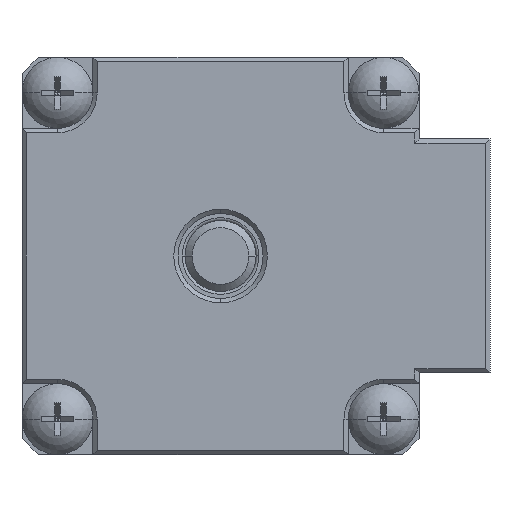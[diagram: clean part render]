
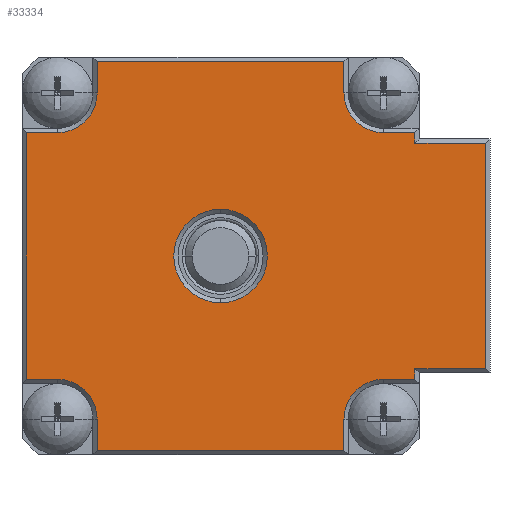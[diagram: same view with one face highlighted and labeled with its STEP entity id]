
A CAD part, front view. The second image highlights one B-rep face of the part: STEP entity #33334.
In plain terms, the highlighted planar face has unit normal (0, -1, 0).
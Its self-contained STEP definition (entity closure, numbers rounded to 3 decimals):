
#3538=DIRECTION('',(0.,0.,1.));
#3539=VECTOR('',#3538,0.75);
#3540=CARTESIAN_POINT('',(13.7,-2.5,7.95));
#3541=LINE('',#3540,#3539);
#3542=DIRECTION('',(-1.,0.,0.));
#3543=VECTOR('',#3542,5.);
#3544=CARTESIAN_POINT('',(18.7,-2.5,7.95));
#3545=LINE('',#3544,#3543);
#3546=DIRECTION('',(0.,0.,-1.));
#3547=VECTOR('',#3546,15.9);
#3548=CARTESIAN_POINT('',(18.7,-2.5,7.95));
#3549=LINE('',#3548,#3547);
#3550=DIRECTION('',(-1.,0.,0.));
#3551=VECTOR('',#3550,5.);
#3552=CARTESIAN_POINT('',(18.7,-2.5,-7.95));
#3553=LINE('',#3552,#3551);
#3554=DIRECTION('',(0.,0.,1.));
#3555=VECTOR('',#3554,0.75);
#3556=CARTESIAN_POINT('',(13.7,-2.5,-8.7));
#3557=LINE('',#3556,#3555);
#3558=DIRECTION('',(1.,0.,0.));
#3559=VECTOR('',#3558,2.2);
#3560=CARTESIAN_POINT('',(11.5,-2.5,
-8.7));
#3561=LINE('',#3560,#3559);
#3562=CARTESIAN_POINT('',(11.5,-2.5,-11.5));
#3563=DIRECTION('',(0.,1.,0.));
#3564=DIRECTION('',(-1.,0.,0.));
#3565=AXIS2_PLACEMENT_3D('',#3562,#3563,#3564);
#3567=DIRECTION('',(0.,0.,1.));
#3568=VECTOR('',#3567,2.2);
#3569=CARTESIAN_POINT('',(8.7,-2.5,-13.7));
#3570=LINE('',#3569,#3568);
#3571=DIRECTION('',(1.,0.,0.));
#3572=VECTOR('',#3571,17.4);
#3573=CARTESIAN_POINT('',(-8.7,-2.5,-13.7));
#3574=LINE('',#3573,#3572);
#3575=DIRECTION('',(0.,0.,-1.));
#3576=VECTOR('',#3575,2.2);
#3577=CARTESIAN_POINT('',(-8.7,-2.5,
-11.5));
#3578=LINE('',#3577,#3576);
#3579=CARTESIAN_POINT('',(-11.5,-2.5,-11.5));
#3580=DIRECTION('',(0.,1.,0.));
#3581=DIRECTION('',(0.,0.,1.));
#3582=AXIS2_PLACEMENT_3D('',#3579,#3580,#3581);
#3584=DIRECTION('',(1.,0.,0.));
#3585=VECTOR('',#3584,2.2);
#3586=CARTESIAN_POINT('',(-13.7,-2.5,-8.7));
#3587=LINE('',#3586,#3585);
#3588=DIRECTION('',(0.,0.,-1.));
#3589=VECTOR('',#3588,17.4);
#3590=CARTESIAN_POINT('',(-13.7,-2.5,8.7));
#3591=LINE('',#3590,#3589);
#3592=DIRECTION('',(-1.,0.,0.));
#3593=VECTOR('',#3592,2.2);
#3594=CARTESIAN_POINT('',(-11.5,-2.5,
8.7));
#3595=LINE('',#3594,#3593);
#3596=CARTESIAN_POINT('',(-11.5,-2.5,11.5));
#3597=DIRECTION('',(0.,1.,0.));
#3598=DIRECTION('',(1.,0.,0.));
#3599=AXIS2_PLACEMENT_3D('',#3596,#3597,#3598);
#3601=DIRECTION('',(0.,0.,-1.));
#3602=VECTOR('',#3601,2.2);
#3603=CARTESIAN_POINT('',(-8.7,-2.5,13.7));
#3604=LINE('',#3603,#3602);
#3605=DIRECTION('',(-1.,0.,0.));
#3606=VECTOR('',#3605,17.4);
#3607=CARTESIAN_POINT('',(8.7,-2.5,13.7));
#3608=LINE('',#3607,#3606);
#3609=DIRECTION('',(0.,0.,1.));
#3610=VECTOR('',#3609,2.2);
#3611=CARTESIAN_POINT('',(8.7,-2.5,11.5));
#3612=LINE('',#3611,#3610);
#3613=CARTESIAN_POINT('',(11.5,-2.5,11.5));
#3614=DIRECTION('',(0.,1.,0.));
#3615=DIRECTION('',(0.,0.,-1.));
#3616=AXIS2_PLACEMENT_3D('',#3613,#3614,#3615);
#3618=DIRECTION('',(-1.,0.,0.));
#3619=VECTOR('',#3618,2.2);
#3620=CARTESIAN_POINT('',(13.7,-2.5,8.7));
#3621=LINE('',#3620,#3619);
#3622=CARTESIAN_POINT('',(0.,-2.5,0.));
#3623=DIRECTION('',(0.,1.,0.));
#3624=DIRECTION('',(0.,0.,1.));
#3625=AXIS2_PLACEMENT_3D('',#3622,#3623,#3624);
#3627=CARTESIAN_POINT('',(0.,-2.5,0.));
#3628=DIRECTION('',(0.,1.,0.));
#3629=DIRECTION('',(0.,0.,-1.));
#3630=AXIS2_PLACEMENT_3D('',#3627,#3628,#3629);
#28418=CARTESIAN_POINT('',(13.7,-2.5,7.95));
#28419=CARTESIAN_POINT('',(13.7,-2.5,8.7));
#28420=VERTEX_POINT('',#28418);
#28421=VERTEX_POINT('',#28419);
#28424=CARTESIAN_POINT('',(18.7,-2.5,7.95));
#28425=VERTEX_POINT('',#28424);
#28426=CARTESIAN_POINT('',(18.7,-2.5,-7.95));
#28427=VERTEX_POINT('',#28426);
#28430=CARTESIAN_POINT('',(13.7,-2.5,-7.95));
#28431=VERTEX_POINT('',#28430);
#28434=CARTESIAN_POINT('',(13.7,-2.5,-8.7));
#28435=VERTEX_POINT('',#28434);
#28440=CARTESIAN_POINT('',(11.5,-2.5,
-8.7));
#28441=VERTEX_POINT('',#28440);
#28442=CARTESIAN_POINT('',(8.7,-2.5,-11.5));
#28443=VERTEX_POINT('',#28442);
#28446=CARTESIAN_POINT('',(8.7,-2.5,-13.7));
#28447=VERTEX_POINT('',#28446);
#28452=CARTESIAN_POINT('',(-8.7,-2.5,-13.7));
#28453=VERTEX_POINT('',#28452);
#28454=CARTESIAN_POINT('',(-13.7,-2.5,-8.7));
#28455=CARTESIAN_POINT('',(-11.5,-2.5,
-8.7));
#28456=VERTEX_POINT('',#28454);
#28457=VERTEX_POINT('',#28455);
#28462=CARTESIAN_POINT('',(-8.7,-2.5,-11.5));
#28463=VERTEX_POINT('',#28462);
#28468=CARTESIAN_POINT('',(-13.7,-2.5,8.7));
#28469=VERTEX_POINT('',#28468);
#28470=CARTESIAN_POINT('',(-8.7,-2.5,13.7));
#28471=CARTESIAN_POINT('',(-8.7,-2.5,
11.5));
#28472=VERTEX_POINT('',#28470);
#28473=VERTEX_POINT('',#28471);
#28478=CARTESIAN_POINT('',(-11.5,-2.5,8.7));
#28479=VERTEX_POINT('',#28478);
#28484=CARTESIAN_POINT('',(8.7,-2.5,13.7));
#28485=VERTEX_POINT('',#28484);
#28486=CARTESIAN_POINT('',(11.5,-2.5,
8.7));
#28487=VERTEX_POINT('',#28486);
#28490=CARTESIAN_POINT('',(8.7,-2.5,11.5));
#28491=VERTEX_POINT('',#28490);
#28570=CARTESIAN_POINT('',(0.,-2.5,3.3));
#28571=CARTESIAN_POINT('',(0.,-2.5,-3.3));
#28572=VERTEX_POINT('',#28570);
#28573=VERTEX_POINT('',#28571);
#33282=CARTESIAN_POINT('',(0.,-2.5,0.));
#33283=DIRECTION('',(0.,1.,0.));
#33284=DIRECTION('',(0.,0.,-1.));
#33285=AXIS2_PLACEMENT_3D('',#33282,#33283,#33284);
#33286=PLANE('',#33285);
#33288=ORIENTED_EDGE('',*,*,#33287,.F.);
#33290=ORIENTED_EDGE('',*,*,#33289,.F.);
#33292=ORIENTED_EDGE('',*,*,#33291,.T.);
#33294=ORIENTED_EDGE('',*,*,#33293,.T.);
#33296=ORIENTED_EDGE('',*,*,#33295,.F.);
#33298=ORIENTED_EDGE('',*,*,#33297,.F.);
#33300=ORIENTED_EDGE('',*,*,#33299,.F.);
#33302=ORIENTED_EDGE('',*,*,#33301,.F.);
#33304=ORIENTED_EDGE('',*,*,#33303,.F.);
#33306=ORIENTED_EDGE('',*,*,#33305,.F.);
#33308=ORIENTED_EDGE('',*,*,#33307,.F.);
#33309=ORIENTED_EDGE('',*,*,#33272,.F.);
#33311=ORIENTED_EDGE('',*,*,#33310,.F.);
#33313=ORIENTED_EDGE('',*,*,#33312,.F.);
#33315=ORIENTED_EDGE('',*,*,#33314,.F.);
#33317=ORIENTED_EDGE('',*,*,#33316,.F.);
#33319=ORIENTED_EDGE('',*,*,#33318,.F.);
#33321=ORIENTED_EDGE('',*,*,#33320,.F.);
#33323=ORIENTED_EDGE('',*,*,#33322,.F.);
#33325=ORIENTED_EDGE('',*,*,#33324,.F.);
#33326=EDGE_LOOP('',(#33288,#33290,#33292,#33294,#33296,#33298,#33300,#33302,
#33304,#33306,#33308,#33309,#33311,#33313,#33315,#33317,#33319,#33321,#33323,
#33325));
#33327=FACE_OUTER_BOUND('',#33326,.F.);
#33329=ORIENTED_EDGE('',*,*,#33328,.F.);
#33331=ORIENTED_EDGE('',*,*,#33330,.F.);
#33332=EDGE_LOOP('',(#33329,#33331));
#33333=FACE_BOUND('',#33332,.F.);
#33334=ADVANCED_FACE('',(#33327,#33333),#33286,.F.);
#3566=CIRCLE('',#3565,2.8);
#3583=CIRCLE('',#3582,2.8);
#3600=CIRCLE('',#3599,2.8);
#3617=CIRCLE('',#3616,2.8);
#3626=CIRCLE('',#3625,3.3);
#3631=CIRCLE('',#3630,3.3);
#33272=EDGE_CURVE('',#28456,#28457,#3587,.T.);
#33287=EDGE_CURVE('',#28420,#28421,#3541,.T.);
#33289=EDGE_CURVE('',#28425,#28420,#3545,.T.);
#33291=EDGE_CURVE('',#28425,#28427,#3549,.T.);
#33293=EDGE_CURVE('',#28427,#28431,#3553,.T.);
#33295=EDGE_CURVE('',#28435,#28431,#3557,.T.);
#33297=EDGE_CURVE('',#28441,#28435,#3561,.T.);
#33299=EDGE_CURVE('',#28443,#28441,#3566,.T.);
#33301=EDGE_CURVE('',#28447,#28443,#3570,.T.);
#33303=EDGE_CURVE('',#28453,#28447,#3574,.T.);
#33305=EDGE_CURVE('',#28463,#28453,#3578,.T.);
#33307=EDGE_CURVE('',#28457,#28463,#3583,.T.);
#33310=EDGE_CURVE('',#28469,#28456,#3591,.T.);
#33312=EDGE_CURVE('',#28479,#28469,#3595,.T.);
#33314=EDGE_CURVE('',#28473,#28479,#3600,.T.);
#33316=EDGE_CURVE('',#28472,#28473,#3604,.T.);
#33318=EDGE_CURVE('',#28485,#28472,#3608,.T.);
#33320=EDGE_CURVE('',#28491,#28485,#3612,.T.);
#33322=EDGE_CURVE('',#28487,#28491,#3617,.T.);
#33324=EDGE_CURVE('',#28421,#28487,#3621,.T.);
#33328=EDGE_CURVE('',#28572,#28573,#3626,.T.);
#33330=EDGE_CURVE('',#28573,#28572,#3631,.T.);
